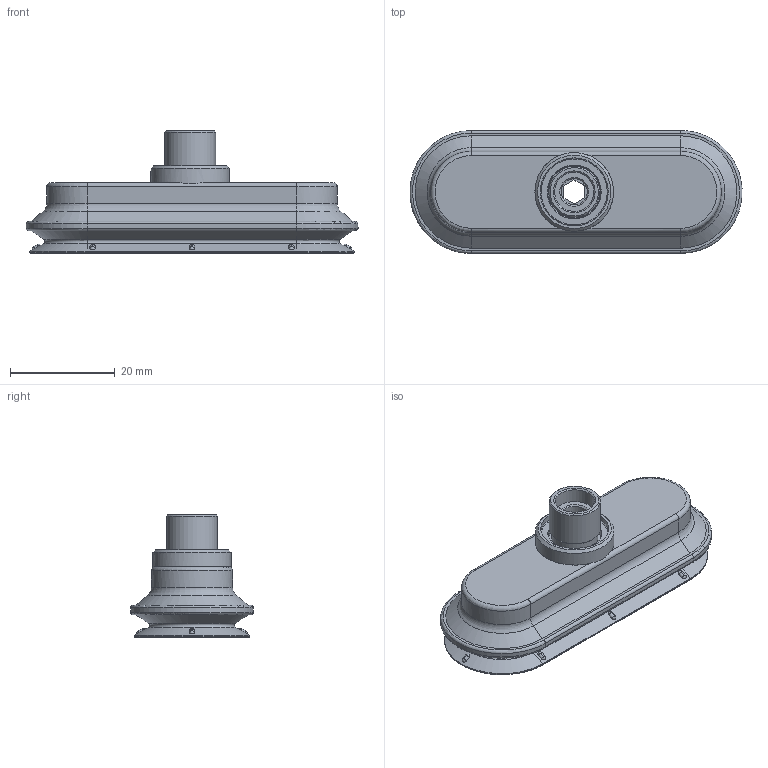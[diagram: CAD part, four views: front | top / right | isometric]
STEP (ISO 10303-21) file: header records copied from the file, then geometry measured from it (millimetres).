
FILE_DESCRIPTION (( 'STEP AP214' ), '1' );
FILE_NAME ('VOB20X60P-G18M.STEP', '2024-08-28T12:35:35', ( '' ), ( '' ), 'SwSTEP 2.0', 'SolidWorks 2018', '' );
FILE_SCHEMA (( 'AUTOMOTIVE_DESIGN' ));
Length unit declared in the file: inch
Products named in the file (1): VOB20X60P-G18M
Bounding box: 63.46 x 23.5 x 23.4 mm (x, y, z)
Surface area: 10359.7 mm2 (no closed solid volume)
Topology: 0 solids, 5 shells, 283 faces, 689 edges, 431 vertices
Faces by surface type: plane 127, cylinder 71, cone 30, torus 29, bspline 26
Full cylindrical faces by diameter (mm): 3.5 x2, 4.5 x3, 5 x4, 7.5 x1, 8.8 x1, 9.73 x1, 10 x1, 10.1 x1, 12.9 x1, 13 x1, 13.1 x2, 15 x1
Entity records: 16372 total; most frequent: CARTESIAN_POINT 7507, ORIENTED_EDGE 1302, EDGE_CURVE 653, DIRECTION 578, B_SPLINE_CURVE_WITH_KNOTS 566, VERTEX_POINT 423, EDGE_LOOP 350, FACE_OUTER_BOUND 303
